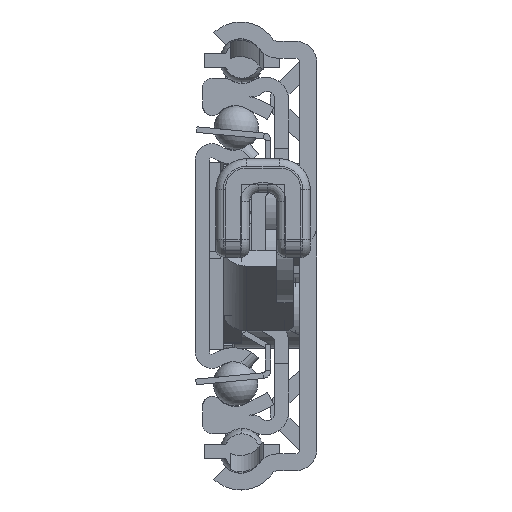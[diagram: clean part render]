
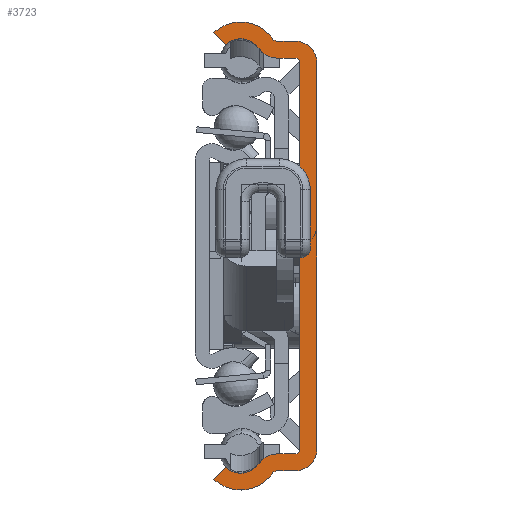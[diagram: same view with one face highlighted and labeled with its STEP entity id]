
A CAD part, left-side view. The second image highlights one B-rep face of the part: STEP entity #3723.
In plain terms, the highlighted planar face has unit normal (-1, 0, 0).
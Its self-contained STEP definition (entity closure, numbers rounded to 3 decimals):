
#1=DIRECTION('',(0.,1.,0.));
#2=VECTOR('',#1,1.975);
#3=CARTESIAN_POINT('',(0.,2.3,21.15));
#4=LINE('',#3,#2);
#5=CARTESIAN_POINT('',(0.,4.275,23.45));
#6=DIRECTION('',(-1.,0.,0.));
#7=DIRECTION('',(0.,0.827,-0.562));
#8=AXIS2_PLACEMENT_3D('',#5,#6,#7);
#10=CARTESIAN_POINT('',(0.,8.147,20.82));
#11=DIRECTION('',(-1.,0.,0.));
#12=DIRECTION('',(0.,-0.827,0.562));
#13=AXIS2_PLACEMENT_3D('',#10,#11,#12);
#15=DIRECTION('',(0.,0.683,0.731));
#16=VECTOR('',#15,1.8);
#17=CARTESIAN_POINT('',(0.,9.771,22.559));
#18=LINE('',#17,#16);
#19=CARTESIAN_POINT('',(0.,8.147,20.82));
#20=DIRECTION('',(1.,0.,0.));
#21=DIRECTION('',(0.,0.683,0.731));
#22=AXIS2_PLACEMENT_3D('',#19,#20,#21);
#24=DIRECTION('',(0.,-1.,0.));
#25=VECTOR('',#24,1.975);
#26=CARTESIAN_POINT('',(0.,4.275,22.95));
#27=LINE('',#26,#25);
#28=CARTESIAN_POINT('',(0.,2.3,20.65));
#29=DIRECTION('',(-1.,0.,0.));
#30=DIRECTION('',(0.,-1.,0.));
#31=AXIS2_PLACEMENT_3D('',#28,#29,#30);
#33=DIRECTION('',(0.,0.,-1.));
#34=VECTOR('',#33,41.3);
#35=CARTESIAN_POINT('',(0.,0.,20.65));
#36=LINE('',#35,#34);
#37=CARTESIAN_POINT('',(0.,2.3,-20.65));
#38=DIRECTION('',(-1.,0.,0.));
#39=DIRECTION('',(0.,0.,-1.));
#40=AXIS2_PLACEMENT_3D('',#37,#38,#39);
#42=DIRECTION('',(0.,1.,0.));
#43=VECTOR('',#42,1.975);
#44=CARTESIAN_POINT('',(0.,2.3,-22.95));
#45=LINE('',#44,#43);
#46=CARTESIAN_POINT('',(0.,8.147,-20.82));
#47=DIRECTION('',(1.,0.,0.));
#48=DIRECTION('',(0.,-0.827,-0.562));
#49=AXIS2_PLACEMENT_3D('',#46,#47,#48);
#51=DIRECTION('',(0.,-0.683,0.731));
#52=VECTOR('',#51,1.8);
#53=CARTESIAN_POINT('',(0.,11.,-23.875));
#54=LINE('',#53,#52);
#55=CARTESIAN_POINT('',(0.,8.147,-20.82));
#56=DIRECTION('',(-1.,0.,0.));
#57=DIRECTION('',(0.,0.683,-0.731));
#58=AXIS2_PLACEMENT_3D('',#55,#56,#57);
#60=CARTESIAN_POINT('',(0.,4.275,-23.45));
#61=DIRECTION('',(-1.,0.,0.));
#62=DIRECTION('',(0.,0.,1.));
#63=AXIS2_PLACEMENT_3D('',#60,#61,#62);
#65=DIRECTION('',(0.,-1.,0.));
#66=VECTOR('',#65,1.975);
#67=CARTESIAN_POINT('',(0.,4.275,-21.15));
#68=LINE('',#67,#66);
#181=DIRECTION('',(0.,0.,-1.));
#182=VECTOR('',#181,41.3);
#183=CARTESIAN_POINT('',(0.,1.8,20.65));
#184=LINE('',#183,#182);
#681=CARTESIAN_POINT('',(0.,2.3,-20.65));
#682=DIRECTION('',(1.,0.,0.));
#683=DIRECTION('',(0.,-1.,0.));
#684=AXIS2_PLACEMENT_3D('',#681,#682,#683);
#798=CARTESIAN_POINT('',(0.,4.275,-23.45));
#799=DIRECTION('',(1.,0.,0.));
#800=DIRECTION('',(0.,0.827,0.562));
#801=AXIS2_PLACEMENT_3D('',#798,#799,#800);
#1566=CARTESIAN_POINT('',(0.,4.275,23.45));
#1567=DIRECTION('',(1.,0.,0.));
#1568=DIRECTION('',(0.,0.,-1.));
#1569=AXIS2_PLACEMENT_3D('',#1566,#1567,#1568);
#1715=CARTESIAN_POINT('',(0.,2.3,20.65));
#1716=DIRECTION('',(1.,0.,0.));
#1717=DIRECTION('',(0.,0.,1.));
#1718=AXIS2_PLACEMENT_3D('',#1715,#1716,#1717);
#2840=CARTESIAN_POINT('',(0.,11.,-23.875));
#2841=CARTESIAN_POINT('',(0.,9.771,-22.559));
#2842=VERTEX_POINT('',#2840);
#2843=VERTEX_POINT('',#2841);
#2844=CARTESIAN_POINT('',(0.,9.771,22.559));
#2845=CARTESIAN_POINT('',(0.,11.,23.875));
#2846=VERTEX_POINT('',#2844);
#2847=VERTEX_POINT('',#2845);
#2856=CARTESIAN_POINT('',(0.,4.275,22.95));
#2857=CARTESIAN_POINT('',(0.,4.689,23.169));
#2858=VERTEX_POINT('',#2856);
#2859=VERTEX_POINT('',#2857);
#2864=CARTESIAN_POINT('',(0.,4.689,-23.169));
#2865=CARTESIAN_POINT('',(0.,4.275,-22.95));
#2866=VERTEX_POINT('',#2864);
#2867=VERTEX_POINT('',#2865);
#2872=CARTESIAN_POINT('',(0.,2.3,-21.15));
#2874=VERTEX_POINT('',#2872);
#2876=CARTESIAN_POINT('',(0.,2.3,21.15));
#2878=VERTEX_POINT('',#2876);
#2880=CARTESIAN_POINT('',(0.,1.8,-20.65));
#2881=VERTEX_POINT('',#2880);
#2884=CARTESIAN_POINT('',(0.,1.8,20.65));
#2885=VERTEX_POINT('',#2884);
#2888=CARTESIAN_POINT('',(0.,4.275,-21.15));
#2889=CARTESIAN_POINT('',(0.,6.178,-22.157));
#2890=VERTEX_POINT('',#2888);
#2891=VERTEX_POINT('',#2889);
#2896=CARTESIAN_POINT('',(0.,0.,20.65));
#2897=CARTESIAN_POINT('',(0.,2.3,22.95));
#2898=VERTEX_POINT('',#2896);
#2899=VERTEX_POINT('',#2897);
#2904=CARTESIAN_POINT('',(0.,6.178,22.157));
#2905=CARTESIAN_POINT('',(0.,4.275,21.15));
#2906=VERTEX_POINT('',#2904);
#2907=VERTEX_POINT('',#2905);
#2912=CARTESIAN_POINT('',(0.,2.3,-22.95));
#2913=CARTESIAN_POINT('',(0.,0.,-20.65));
#2914=VERTEX_POINT('',#2912);
#2915=VERTEX_POINT('',#2913);
#3676=CARTESIAN_POINT('',(0.,0.,0.));
#3677=DIRECTION('',(1.,0.,0.));
#3678=DIRECTION('',(0.,-1.,0.));
#3679=AXIS2_PLACEMENT_3D('',#3676,#3677,#3678);
#3680=PLANE('',#3679);
#3682=ORIENTED_EDGE('',*,*,#3681,.F.);
#3684=ORIENTED_EDGE('',*,*,#3683,.F.);
#3686=ORIENTED_EDGE('',*,*,#3685,.T.);
#3688=ORIENTED_EDGE('',*,*,#3687,.F.);
#3690=ORIENTED_EDGE('',*,*,#3689,.T.);
#3692=ORIENTED_EDGE('',*,*,#3691,.T.);
#3694=ORIENTED_EDGE('',*,*,#3693,.T.);
#3696=ORIENTED_EDGE('',*,*,#3695,.F.);
#3698=ORIENTED_EDGE('',*,*,#3697,.T.);
#3700=ORIENTED_EDGE('',*,*,#3699,.F.);
#3702=ORIENTED_EDGE('',*,*,#3701,.T.);
#3704=ORIENTED_EDGE('',*,*,#3703,.F.);
#3706=ORIENTED_EDGE('',*,*,#3705,.T.);
#3708=ORIENTED_EDGE('',*,*,#3707,.F.);
#3710=ORIENTED_EDGE('',*,*,#3709,.T.);
#3712=ORIENTED_EDGE('',*,*,#3711,.T.);
#3714=ORIENTED_EDGE('',*,*,#3713,.T.);
#3716=ORIENTED_EDGE('',*,*,#3715,.F.);
#3718=ORIENTED_EDGE('',*,*,#3717,.T.);
#3720=ORIENTED_EDGE('',*,*,#3719,.F.);
#3721=EDGE_LOOP('',(#3682,#3684,#3686,#3688,#3690,#3692,#3694,#3696,#3698,#3700,
#3702,#3704,#3706,#3708,#3710,#3712,#3714,#3716,#3718,#3720));
#3722=FACE_OUTER_BOUND('',#3721,.F.);
#9=CIRCLE('',#8,2.3);
#14=CIRCLE('',#13,2.38);
#23=CIRCLE('',#22,4.18);
#32=CIRCLE('',#31,2.3);
#41=CIRCLE('',#40,2.3);
#50=CIRCLE('',#49,4.18);
#59=CIRCLE('',#58,2.38);
#64=CIRCLE('',#63,2.3);
#685=CIRCLE('',#684,0.5);
#802=CIRCLE('',#801,0.5);
#1570=CIRCLE('',#1569,0.5);
#1719=CIRCLE('',#1718,0.5);
#3681=EDGE_CURVE('',#2885,#2881,#184,.T.);
#3683=EDGE_CURVE('',#2878,#2885,#1719,.T.);
#3685=EDGE_CURVE('',#2878,#2907,#4,.T.);
#3687=EDGE_CURVE('',#2906,#2907,#9,.T.);
#3689=EDGE_CURVE('',#2906,#2846,#14,.T.);
#3691=EDGE_CURVE('',#2846,#2847,#18,.T.);
#3693=EDGE_CURVE('',#2847,#2859,#23,.T.);
#3695=EDGE_CURVE('',#2858,#2859,#1570,.T.);
#3697=EDGE_CURVE('',#2858,#2899,#27,.T.);
#3699=EDGE_CURVE('',#2898,#2899,#32,.T.);
#3701=EDGE_CURVE('',#2898,#2915,#36,.T.);
#3703=EDGE_CURVE('',#2914,#2915,#41,.T.);
#3705=EDGE_CURVE('',#2914,#2867,#45,.T.);
#3707=EDGE_CURVE('',#2866,#2867,#802,.T.);
#3709=EDGE_CURVE('',#2866,#2842,#50,.T.);
#3711=EDGE_CURVE('',#2842,#2843,#54,.T.);
#3713=EDGE_CURVE('',#2843,#2891,#59,.T.);
#3715=EDGE_CURVE('',#2890,#2891,#64,.T.);
#3717=EDGE_CURVE('',#2890,#2874,#68,.T.);
#3719=EDGE_CURVE('',#2881,#2874,#685,.T.);
#3723=ADVANCED_FACE('',(#3722),#3680,.F.);
